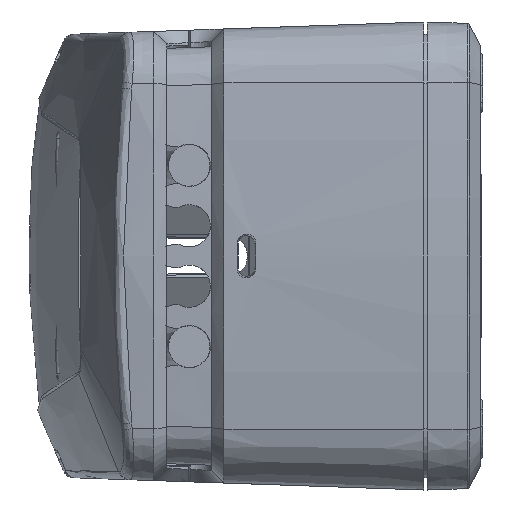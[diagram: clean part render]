
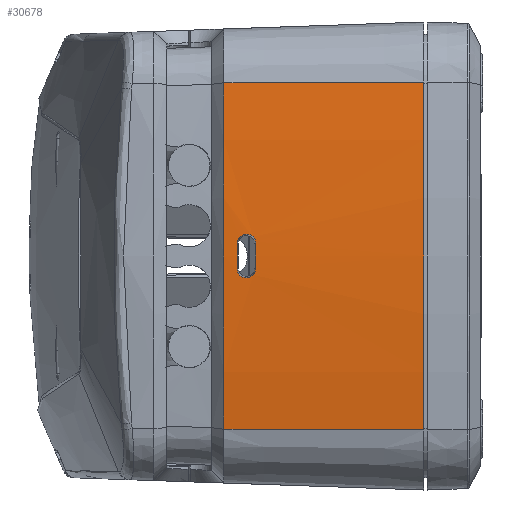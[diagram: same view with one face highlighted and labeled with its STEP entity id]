
A CAD part, left-side view. The second image highlights one B-rep face of the part: STEP entity #30678.
In plain terms, the highlighted conical face has half-angle 2 degrees and reference radius 199.529 mm.
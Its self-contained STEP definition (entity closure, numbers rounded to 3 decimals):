
#3167=CARTESIAN_POINT('',(110.5,0.25,0.));
#3168=DIRECTION('',(0.,1.,0.));
#3169=DIRECTION('',(-0.993,0.,-0.115));
#3170=AXIS2_PLACEMENT_3D('',#3167,#3168,#3169);
#3172=CARTESIAN_POINT('',(110.5,0.25,0.));
#3173=DIRECTION('',(0.,1.,0.));
#3174=DIRECTION('',(-1.,0.,0.));
#3175=AXIS2_PLACEMENT_3D('',#3172,#3173,#3174);
#3248=DIRECTION('',(-0.035,-0.999,-0.004));
#3249=VECTOR('',#3248,26.467);
#3250=CARTESIAN_POINT('',(-87.243,26.701,
-22.929));
#3251=LINE('',#3250,#3249);
#3265=CARTESIAN_POINT('',(110.5,26.701,0.));
#3266=DIRECTION('',(0.,-1.,0.));
#3267=DIRECTION('',(-0.993,0.,0.115));
#3268=AXIS2_PLACEMENT_3D('',#3265,#3266,#3267);
#3270=CARTESIAN_POINT('',(110.5,26.701,0.));
#3271=DIRECTION('',(0.,-1.,0.));
#3272=DIRECTION('',(-1.,0.,0.));
#3273=AXIS2_PLACEMENT_3D('',#3270,#3271,#3272);
#3279=DIRECTION('',(-0.035,-0.999,0.004));
#3280=VECTOR('',#3279,26.467);
#3281=CARTESIAN_POINT('',(-87.243,26.701,22.929));
#3282=LINE('',#3281,#3280);
#3283=CARTESIAN_POINT('',(-88.622,24.951,
-1.678));
#3284=CARTESIAN_POINT('',(-88.621,24.951,
-1.754));
#3285=CARTESIAN_POINT('',(-88.62,24.938,
-1.903));
#3286=CARTESIAN_POINT('',(-88.62,24.874,
-2.125));
#3287=CARTESIAN_POINT('',(-88.621,24.773,
-2.327));
#3288=CARTESIAN_POINT('',(-88.624,24.637,
-2.507));
#3289=CARTESIAN_POINT('',(-88.628,24.467,
-2.662));
#3290=CARTESIAN_POINT('',(-88.633,24.276,
-2.781));
#3291=CARTESIAN_POINT('',(-88.639,24.063,
-2.863));
#3292=CARTESIAN_POINT('',(-88.646,23.838,
-2.905));
#3293=CARTESIAN_POINT('',(-88.654,23.615,
-2.905));
#3294=CARTESIAN_POINT('',(-88.663,23.391,
-2.863));
#3295=CARTESIAN_POINT('',(-88.671,23.179,
-2.781));
#3296=CARTESIAN_POINT('',(-88.679,22.988,
-2.664));
#3297=CARTESIAN_POINT('',(-88.687,22.818,
-2.51));
#3298=CARTESIAN_POINT('',(-88.694,22.682,
-2.33));
#3299=CARTESIAN_POINT('',(-88.7,22.579,
-2.127));
#3300=CARTESIAN_POINT('',(-88.705,22.515,
-1.904));
#3301=CARTESIAN_POINT('',(-88.707,22.501,
-1.755));
#3302=CARTESIAN_POINT('',(-88.707,22.501,
-1.678));
#3304=CARTESIAN_POINT('',(-88.707,22.501,1.678));
#3305=CARTESIAN_POINT('',(-88.707,22.501,1.754));
#3306=CARTESIAN_POINT('',(-88.705,22.515,1.903));
#3307=CARTESIAN_POINT('',(-88.7,22.578,2.125));
#3308=CARTESIAN_POINT('',(-88.694,22.68,2.327));
#3309=CARTESIAN_POINT('',(-88.688,22.815,2.508));
#3310=CARTESIAN_POINT('',(-88.68,22.986,2.663));
#3311=CARTESIAN_POINT('',(-88.671,23.178,2.781));
#3312=CARTESIAN_POINT('',(-88.663,23.391,2.863));
#3313=CARTESIAN_POINT('',(-88.654,23.615,2.905));
#3314=CARTESIAN_POINT('',(-88.646,23.839,2.905));
#3315=CARTESIAN_POINT('',(-88.639,24.062,2.863));
#3316=CARTESIAN_POINT('',(-88.633,24.274,2.781));
#3317=CARTESIAN_POINT('',(-88.628,24.465,2.664));
#3318=CARTESIAN_POINT('',(-88.624,24.635,2.51));
#3319=CARTESIAN_POINT('',(-88.621,24.771,2.33));
#3320=CARTESIAN_POINT('',(-88.62,24.874,2.127));
#3321=CARTESIAN_POINT('',(-88.62,24.937,1.904));
#3322=CARTESIAN_POINT('',(-88.621,24.951,1.754));
#3323=CARTESIAN_POINT('',(-88.622,24.951,1.678));
#3339=CARTESIAN_POINT('',(-88.622,24.951,
-1.678));
#3340=CARTESIAN_POINT('',(-88.623,24.951,
-1.492));
#3341=CARTESIAN_POINT('',(-88.626,24.951,
-1.119));
#3342=CARTESIAN_POINT('',(-88.628,24.951,
-0.559));
#3343=CARTESIAN_POINT('',(-88.629,24.951,
-0.186));
#3344=CARTESIAN_POINT('',(-88.629,24.951,
0.));
#3346=CARTESIAN_POINT('',(-88.629,24.951,
0.));
#3347=CARTESIAN_POINT('',(-88.629,24.951,
0.186));
#3348=CARTESIAN_POINT('',(-88.628,24.951,
0.559));
#3349=CARTESIAN_POINT('',(-88.626,24.951,1.119));
#3350=CARTESIAN_POINT('',(-88.623,24.951,1.492));
#3351=CARTESIAN_POINT('',(-88.622,24.951,1.678));
#3382=CARTESIAN_POINT('',(-88.707,22.501,1.678));
#3383=CARTESIAN_POINT('',(-88.709,22.501,1.492));
#3384=CARTESIAN_POINT('',(-88.711,22.501,1.119));
#3385=CARTESIAN_POINT('',(-88.714,22.501,
0.559));
#3386=CARTESIAN_POINT('',(-88.714,22.501,
0.186));
#3387=CARTESIAN_POINT('',(-88.714,22.501,0.));
#3389=CARTESIAN_POINT('',(-88.714,22.501,0.));
#3390=CARTESIAN_POINT('',(-88.714,22.501,
-0.186));
#3391=CARTESIAN_POINT('',(-88.714,22.501,
-0.559));
#3392=CARTESIAN_POINT('',(-88.711,22.501,
-1.119));
#3393=CARTESIAN_POINT('',(-88.709,22.501,
-1.492));
#3394=CARTESIAN_POINT('',(-88.707,22.501,
-1.678));
#23747=CARTESIAN_POINT('',(-88.16,0.25,
-23.036));
#23749=VERTEX_POINT('',#23747);
#23750=CARTESIAN_POINT('',(-89.491,0.25,
0.));
#23751=CARTESIAN_POINT('',(-88.16,0.25,
23.036));
#23752=VERTEX_POINT('',#23750);
#23753=VERTEX_POINT('',#23751);
#23772=CARTESIAN_POINT('',(-87.243,26.701,
-22.929));
#23774=VERTEX_POINT('',#23772);
#23776=CARTESIAN_POINT('',(-87.243,26.701,
22.929));
#23777=VERTEX_POINT('',#23776);
#23778=CARTESIAN_POINT('',(-88.568,26.701,
0.));
#23779=VERTEX_POINT('',#23778);
#23780=VERTEX_POINT('',#3339);
#23781=VERTEX_POINT('',#3344);
#23782=VERTEX_POINT('',#3351);
#23783=VERTEX_POINT('',#3302);
#23784=VERTEX_POINT('',#3389);
#23785=VERTEX_POINT('',#3382);
#30651=CARTESIAN_POINT('',(110.5,13.475,0.));
#30652=DIRECTION('',(0.,-1.,0.));
#30653=DIRECTION('',(-1.,0.,0.));
#30654=AXIS2_PLACEMENT_3D('',#30651,#30652,#30653);
#30655=CONICAL_SURFACE('',#30654,199.529,2.);
#30656=ORIENTED_EDGE('',*,*,#30645,.F.);
#30657=ORIENTED_EDGE('',*,*,#30643,.F.);
#30658=ORIENTED_EDGE('',*,*,#30560,.T.);
#30659=ORIENTED_EDGE('',*,*,#30574,.F.);
#30660=ORIENTED_EDGE('',*,*,#30572,.F.);
#30661=ORIENTED_EDGE('',*,*,#30614,.F.);
#30662=EDGE_LOOP('',(#30656,#30657,#30658,#30659,#30660,#30661));
#30663=FACE_OUTER_BOUND('',#30662,.F.);
#30665=ORIENTED_EDGE('',*,*,#30664,.F.);
#30667=ORIENTED_EDGE('',*,*,#30666,.F.);
#30669=ORIENTED_EDGE('',*,*,#30668,.T.);
#30671=ORIENTED_EDGE('',*,*,#30670,.F.);
#30673=ORIENTED_EDGE('',*,*,#30672,.F.);
#30675=ORIENTED_EDGE('',*,*,#30674,.T.);
#30676=EDGE_LOOP('',(#30665,#30667,#30669,#30671,#30673,#30675));
#30677=FACE_BOUND('',#30676,.F.);
#3171=CIRCLE('',#3170,199.991);
#3176=CIRCLE('',#3175,199.991);
#3269=CIRCLE('',#3268,199.068);
#3274=CIRCLE('',#3273,199.068);
#3303=B_SPLINE_CURVE_WITH_KNOTS('',3,(#3283,#3284,#3285,#3286,#3287,#3288,#3289,
#3290,#3291,#3292,#3293,#3294,#3295,#3296,#3297,#3298,#3299,#3300,#3301,#3302),
.UNSPECIFIED.,.F.,.F.,(4,1,1,1,1,1,1,1,1,1,1,1,1,1,1,1,1,4),(0.,
0.059,0.118,0.176,0.235,
0.294,0.353,0.412,0.471,
0.529,0.588,0.647,0.706,
0.765,0.824,0.882,0.941,1.),
.UNSPECIFIED.);
#3324=B_SPLINE_CURVE_WITH_KNOTS('',3,(#3304,#3305,#3306,#3307,#3308,#3309,#3310,
#3311,#3312,#3313,#3314,#3315,#3316,#3317,#3318,#3319,#3320,#3321,#3322,#3323),
.UNSPECIFIED.,.F.,.F.,(4,1,1,1,1,1,1,1,1,1,1,1,1,1,1,1,1,4),(0.,
0.059,0.118,0.176,0.235,
0.294,0.353,0.412,0.471,
0.529,0.588,0.647,0.706,
0.765,0.824,0.882,0.941,1.),
.UNSPECIFIED.);
#3345=B_SPLINE_CURVE_WITH_KNOTS('',3,(#3339,#3340,#3341,#3342,#3343,#3344),
.UNSPECIFIED.,.F.,.F.,(4,1,1,4),(0.,0.333,0.667,1.),
.UNSPECIFIED.);
#3352=B_SPLINE_CURVE_WITH_KNOTS('',3,(#3346,#3347,#3348,#3349,#3350,#3351),
.UNSPECIFIED.,.F.,.F.,(4,1,1,4),(0.,0.333,0.667,1.),
.UNSPECIFIED.);
#3388=B_SPLINE_CURVE_WITH_KNOTS('',3,(#3382,#3383,#3384,#3385,#3386,#3387),
.UNSPECIFIED.,.F.,.F.,(4,1,1,4),(0.,0.333,0.667,1.),
.UNSPECIFIED.);
#3395=B_SPLINE_CURVE_WITH_KNOTS('',3,(#3389,#3390,#3391,#3392,#3393,#3394),
.UNSPECIFIED.,.F.,.F.,(4,1,1,4),(0.,0.333,0.667,1.),
.UNSPECIFIED.);
#30560=EDGE_CURVE('',#23777,#23753,#3282,.T.);
#30572=EDGE_CURVE('',#23749,#23752,#3171,.T.);
#30574=EDGE_CURVE('',#23752,#23753,#3176,.T.);
#30614=EDGE_CURVE('',#23774,#23749,#3251,.T.);
#30643=EDGE_CURVE('',#23777,#23779,#3269,.T.);
#30645=EDGE_CURVE('',#23779,#23774,#3274,.T.);
#30664=EDGE_CURVE('',#23781,#23782,#3352,.T.);
#30666=EDGE_CURVE('',#23780,#23781,#3345,.T.);
#30668=EDGE_CURVE('',#23780,#23783,#3303,.T.);
#30670=EDGE_CURVE('',#23784,#23783,#3395,.T.);
#30672=EDGE_CURVE('',#23785,#23784,#3388,.T.);
#30674=EDGE_CURVE('',#23785,#23782,#3324,.T.);
#30678=ADVANCED_FACE('',(#30663,#30677),#30655,.T.);
